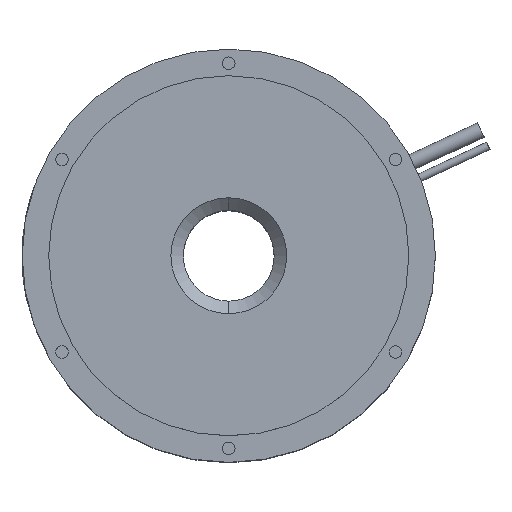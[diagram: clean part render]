
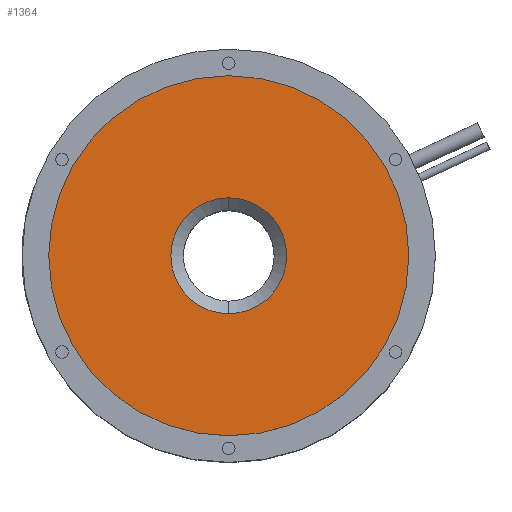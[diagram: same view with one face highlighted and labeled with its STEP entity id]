
A CAD part, top view. The second image highlights one B-rep face of the part: STEP entity #1364.
In plain terms, the highlighted planar face has unit normal (0, 0, 1).
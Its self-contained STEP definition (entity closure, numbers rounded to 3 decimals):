
#417 = VERTEX_POINT ( 'NONE', #2656 ) ;
#418 = EDGE_CURVE ( 'NONE', #417, #490, #2651, .T. ) ;
#490 = VERTEX_POINT ( 'NONE', #2751 ) ;
#1039 = VERTEX_POINT ( 'NONE', #3955 ) ;
#1112 = EDGE_CURVE ( 'NONE', #1113, #1039, #4066, .T. ) ;
#1113 = VERTEX_POINT ( 'NONE', #4106 ) ;
#1301 = EDGE_CURVE ( 'NONE', #490, #417, #4448, .T. ) ;
#1304 = EDGE_LOOP ( 'NONE', ( #1366, #1373 ) ) ;
#1352 = ORIENTED_EDGE ( 'NONE', *, *, #1112, .F. ) ;
#1353 = ORIENTED_EDGE ( 'NONE', *, *, #1367, .F. ) ;
#1363 = EDGE_LOOP ( 'NONE', ( #1352, #1353 ) ) ;
#1364 = ADVANCED_FACE ( 'NONE', ( #4608, #4618 ), #4620, .T. ) ;
#1366 = ORIENTED_EDGE ( 'NONE', *, *, #418, .T. ) ;
#1367 = EDGE_CURVE ( 'NONE', #1039, #1113, #4619, .T. ) ;
#1373 = ORIENTED_EDGE ( 'NONE', *, *, #1301, .T. ) ;
#2607 = AXIS2_PLACEMENT_3D ( 'NONE', #2647, #2646, #2645 ) ;
#2645 = DIRECTION ( 'NONE',  ( 0., -1., 0. ) ) ;
#2646 = DIRECTION ( 'NONE',  ( 0., 0., -1. ) ) ;
#2647 = CARTESIAN_POINT ( 'NONE',  ( 0., 0., 188. ) ) ;
#2651 = CIRCLE ( 'NONE', #2607, 37. ) ;
#2656 = CARTESIAN_POINT ( 'NONE',  ( 0., -37., 188. ) ) ;
#2751 = CARTESIAN_POINT ( 'NONE',  ( 0., 37., 188. ) ) ;
#3955 = CARTESIAN_POINT ( 'NONE',  ( 0., -115., 188. ) ) ;
#4066 = CIRCLE ( 'NONE', #4116, 115. ) ;
#4102 = DIRECTION ( 'NONE',  ( 0., 1., 0. ) ) ;
#4103 = DIRECTION ( 'NONE',  ( 0., 0., -1. ) ) ;
#4106 = CARTESIAN_POINT ( 'NONE',  ( 0., 115., 188. ) ) ;
#4116 = AXIS2_PLACEMENT_3D ( 'NONE', #4122, #4103, #4102 ) ;
#4122 = CARTESIAN_POINT ( 'NONE',  ( 0., 0., 188. ) ) ;
#4448 = CIRCLE ( 'NONE', #4456, 37. ) ;
#4456 = AXIS2_PLACEMENT_3D ( 'NONE', #4474, #4503, #4502 ) ;
#4474 = CARTESIAN_POINT ( 'NONE',  ( 0., 0., 188. ) ) ;
#4502 = DIRECTION ( 'NONE',  ( 0., -1., 0. ) ) ;
#4503 = DIRECTION ( 'NONE',  ( 0., 0., -1. ) ) ;
#4599 = DIRECTION ( 'NONE',  ( 0., 1., 0. ) ) ;
#4600 = DIRECTION ( 'NONE',  ( 0., 0., -1. ) ) ;
#4601 = DIRECTION ( 'NONE',  ( 0., -1., 0. ) ) ;
#4602 = DIRECTION ( 'NONE',  ( 0., 0., 1. ) ) ;
#4603 = CARTESIAN_POINT ( 'NONE',  ( 0., -29., 188. ) ) ;
#4608 = FACE_BOUND ( 'NONE', #1304, .T. ) ;
#4609 = AXIS2_PLACEMENT_3D ( 'NONE', #4617, #4600, #4599 ) ;
#4616 = AXIS2_PLACEMENT_3D ( 'NONE', #4603, #4602, #4601 ) ;
#4617 = CARTESIAN_POINT ( 'NONE',  ( 0., 0., 188. ) ) ;
#4618 = FACE_OUTER_BOUND ( 'NONE', #1363, .T. ) ;
#4619 = CIRCLE ( 'NONE', #4609, 115. ) ;
#4620 = PLANE ( 'NONE',  #4616 ) ;
